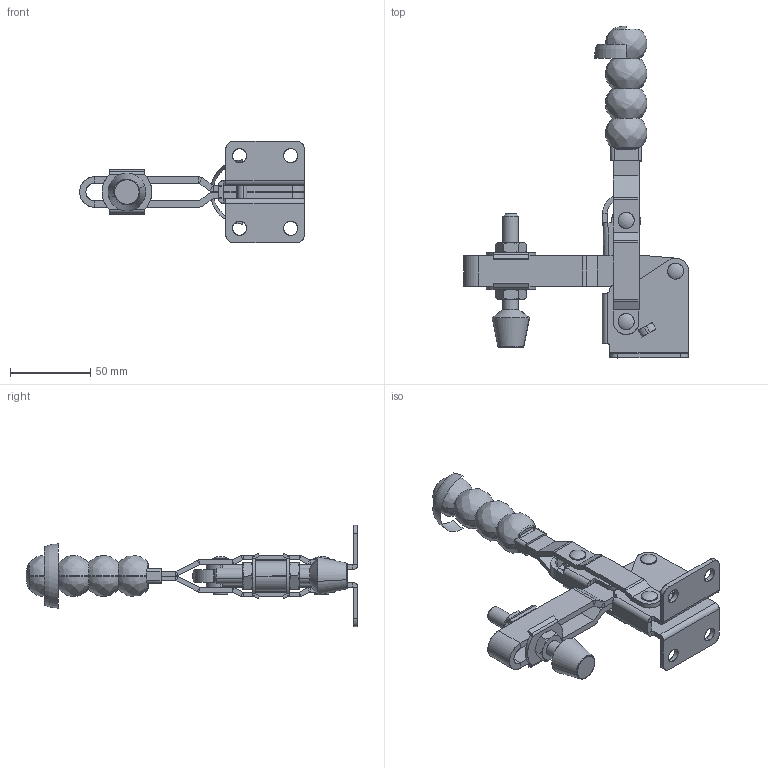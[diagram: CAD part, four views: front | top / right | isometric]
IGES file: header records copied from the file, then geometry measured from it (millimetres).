
Start section: SolidWorks IGES file using analytic representation for surfaces
Global section: file name: \\BARTOP_SV6\share\SOLIDWORKS\工具事業部\坂入用\Toggle clamp\ISK-HV6500\ISK-HV6500.IGS; native system: SolidWorks 2015; preprocessor: SolidWorks 2015; author: SOLID02; date: 150806.160641; units: millimetre
Bounding box: 140 x 206.54 x 63 mm (x, y, z)
Surface area: 72048.3 mm2 (no closed solid volume)
Topology: 0 solids, 0 shells, 514 faces, 6257 edges, 6254 vertices
Faces by surface type: bspline 282, revolution 232
